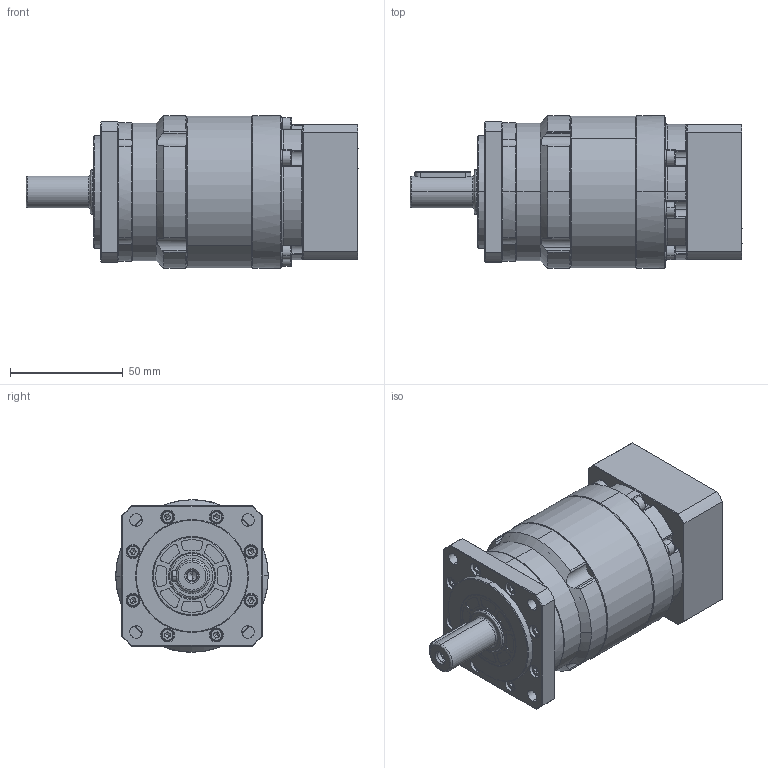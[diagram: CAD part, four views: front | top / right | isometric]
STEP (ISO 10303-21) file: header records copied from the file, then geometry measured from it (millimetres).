
FILE_DESCRIPTION (( 'STEP AP214' ), '1' );
FILE_NAME ('FB060-L2-S2-P2 14-50-70-M5.STEP', '2023-09-20T03:34:06', ( '微软用户' ), ( '微软中国' ), 'SwSTEP 2.0', 'SolidWorks 2018', '' );
FILE_SCHEMA (( 'AUTOMOTIVE_DESIGN' ));
Length unit declared in the file: millimetre
Products named in the file (17): hexagon socket head cap screws gb_GB_FASTENER_SCREWS_HSHCS M4X20-N; 输入太阳轮FB060D14外形图; FB060二级齿圈外形图; spring lock washers--normal type gb_GB_FASTENER_WASHER_SW 4; 萇儂楊擘FB060-D50-M5-70F60H24.5; FB060笢潔楊擘俋倛芞; FB060一级齿圈外形图; hexagon socket head cap screws gb_GB_FASTENER_SCREWS_HSHCS M3X16-N; 標杶FB060D17; 一级输出轴FB060外形图; hexagon socket head cap screws gb_GB_FASTENER_SCREWS_HSHCS M5X16-N; hex socket set screws with flat point gb_GB_FASTENER_SCREWS_HSFP M10X8-N; spring lock washers--normal type gb_GB_FASTENER_WASHER_SW 3; FB060-L2-S2-P2 14-50-70-M5; plain parallel keys_GB_CONNECTING_PIECE_KEYS_CSK 5X25; FB060方输出端盖外形图; 蚐猾20X35X5
Assembly tree (52 placements, depth 2):
  FB060-L2-S2-P2 14-50-70-M5
    FB060一级齿圈外形图
    一级输出轴FB060外形图
    输入太阳轮FB060D14外形图
    FB060笢潔楊擘俋倛芞
    萇儂楊擘FB060-D50-M5-70F60H24.5
    標杶FB060D17
    hexagon socket head cap screws gb_GB_FASTENER_SCREWS_HSHCS M5X16-N
    hexagon socket head cap screws gb_GB_FASTENER_SCREWS_HSHCS M4X20-N  x12
    spring lock washers--normal type gb_GB_FASTENER_WASHER_SW 4  x12
    hex socket set screws with flat point gb_GB_FASTENER_SCREWS_HSFP M10X8-N
    FB060方输出端盖外形图
    蚐猾20X35X5
    plain parallel keys_GB_CONNECTING_PIECE_KEYS_CSK 5X25
    hexagon socket head cap screws gb_GB_FASTENER_SCREWS_HSHCS M3X16-N  x8
    spring lock washers--normal type gb_GB_FASTENER_WASHER_SW 3  x8
    FB060二级齿圈外形图
Bounding box: 147 x 67.5 x 67.5 mm (x, y, z)
Volume: 344542 mm3; surface area: 95259 mm2
Topology: 52 solids, 52 shells, 1488 faces, 3635 edges, 2254 vertices
Faces by surface type: plane 574, cylinder 558, cone 264, bspline 92
Entity records: 37741 total; most frequent: CARTESIAN_POINT 6722, DIRECTION 4588, ORIENTED_EDGE 4230, EDGE_CURVE 2115, AXIS2_PLACEMENT_3D 1862, VERTEX_POINT 1350, CIRCLE 1005, EDGE_LOOP 991
